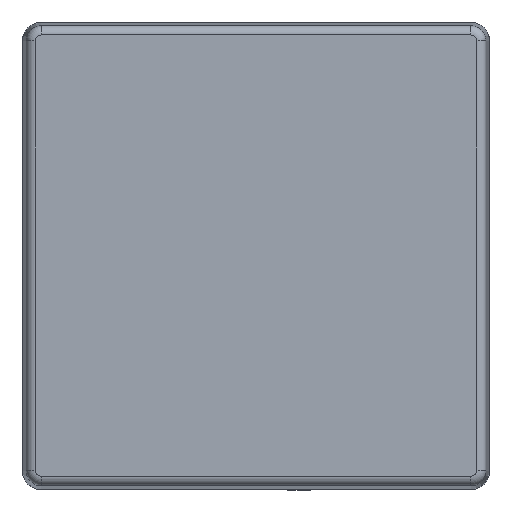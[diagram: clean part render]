
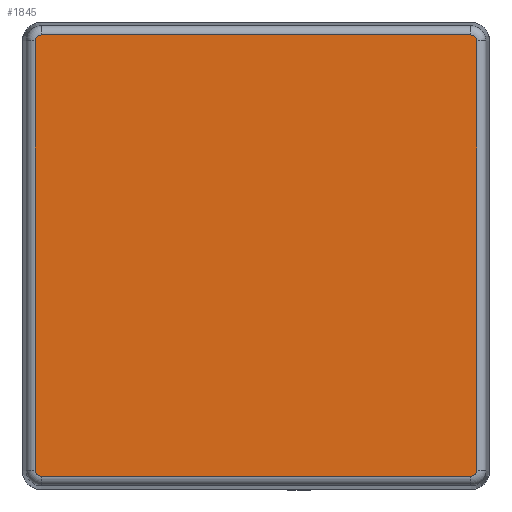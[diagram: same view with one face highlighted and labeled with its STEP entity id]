
A CAD part, top view. The second image highlights one B-rep face of the part: STEP entity #1845.
In plain terms, the highlighted planar face has unit normal (0, 0, 1).
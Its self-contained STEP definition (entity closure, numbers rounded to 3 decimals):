
#23 = VERTEX_POINT ( 'NONE', #2709 ) ;
#41 = VERTEX_POINT ( 'NONE', #1222 ) ;
#178 = DIRECTION ( 'NONE',  ( -1., 0., 0. ) ) ;
#252 = CIRCLE ( 'NONE', #824, 0.322 ) ;
#274 = PLANE ( 'NONE',  #1546 ) ;
#326 = CARTESIAN_POINT ( 'NONE',  ( 12.072, -11.75, 10.7 ) ) ;
#329 = CARTESIAN_POINT ( 'NONE',  ( -11.75, 11.75, 10.7 ) ) ;
#370 = CARTESIAN_POINT ( 'NONE',  ( 11.75, -11.75, 10.7 ) ) ;
#427 = CARTESIAN_POINT ( 'NONE',  ( 11.75, -12.072, 10.7 ) ) ;
#474 = VERTEX_POINT ( 'NONE', #326 ) ;
#491 = LINE ( 'NONE', #711, #908 ) ;
#508 = EDGE_CURVE ( 'NONE', #23, #1864, #2523, .T. ) ;
#539 = DIRECTION ( 'NONE',  ( 0., 0., 1. ) ) ;
#608 = CARTESIAN_POINT ( 'NONE',  ( 11.75, -12.072, 10.7 ) ) ;
#654 = EDGE_CURVE ( 'NONE', #763, #1311, #2075, .T. ) ;
#680 = FACE_OUTER_BOUND ( 'NONE', #2603, .T. ) ;
#711 = CARTESIAN_POINT ( 'NONE',  ( 12.072, 11.75, 10.7 ) ) ;
#719 = CARTESIAN_POINT ( 'NONE',  ( -12.072, -11.75, 10.7 ) ) ;
#728 = DIRECTION ( 'NONE',  ( 1., 0., 0. ) ) ;
#731 = ORIENTED_EDGE ( 'NONE', *, *, #2096, .T. ) ;
#757 = DIRECTION ( 'NONE',  ( 1., 0., 0. ) ) ;
#763 = VERTEX_POINT ( 'NONE', #1663 ) ;
#764 = VERTEX_POINT ( 'NONE', #608 ) ;
#804 = EDGE_CURVE ( 'NONE', #764, #474, #252, .T. ) ;
#824 = AXIS2_PLACEMENT_3D ( 'NONE', #370, #2085, #1486 ) ;
#884 = DIRECTION ( 'NONE',  ( 0., 0., 1. ) ) ;
#908 = VECTOR ( 'NONE', #1560, 1000. ) ;
#928 = VERTEX_POINT ( 'NONE', #719 ) ;
#946 = CARTESIAN_POINT ( 'NONE',  ( -12.072, -11.75, 10.7 ) ) ;
#964 = ORIENTED_EDGE ( 'NONE', *, *, #508, .T. ) ;
#967 = LINE ( 'NONE', #946, #1501 ) ;
#1072 = ORIENTED_EDGE ( 'NONE', *, *, #2064, .T. ) ;
#1085 = DIRECTION ( 'NONE',  ( 1., 0., 0. ) ) ;
#1167 = EDGE_CURVE ( 'NONE', #474, #23, #491, .T. ) ;
#1189 = DIRECTION ( 'NONE',  ( 0., 0., 1. ) ) ;
#1196 = CIRCLE ( 'NONE', #2356, 0.322 ) ;
#1222 = CARTESIAN_POINT ( 'NONE',  ( -11.75, -12.072, 10.7 ) ) ;
#1311 = VERTEX_POINT ( 'NONE', #2191 ) ;
#1354 = CARTESIAN_POINT ( 'NONE',  ( 11.75, 11.75, 10.7 ) ) ;
#1417 = EDGE_CURVE ( 'NONE', #1311, #928, #967, .T. ) ;
#1422 = VECTOR ( 'NONE', #178, 1000. ) ;
#1474 = DIRECTION ( 'NONE',  ( 0., -1., 0. ) ) ;
#1486 = DIRECTION ( 'NONE',  ( 1., 0., 0. ) ) ;
#1501 = VECTOR ( 'NONE', #1474, 1000. ) ;
#1546 = AXIS2_PLACEMENT_3D ( 'NONE', #1354, #539, #728 ) ;
#1560 = DIRECTION ( 'NONE',  ( 0., 1., 0. ) ) ;
#1663 = CARTESIAN_POINT ( 'NONE',  ( -11.75, 12.072, 10.7 ) ) ;
#1682 = ORIENTED_EDGE ( 'NONE', *, *, #1167, .T. ) ;
#1711 = AXIS2_PLACEMENT_3D ( 'NONE', #329, #1189, #2421 ) ;
#1742 = DIRECTION ( 'NONE',  ( 1., 0., 0. ) ) ;
#1754 = CARTESIAN_POINT ( 'NONE',  ( 11.75, 11.75, 10.7 ) ) ;
#1761 = ORIENTED_EDGE ( 'NONE', *, *, #1843, .T. ) ;
#1770 = ORIENTED_EDGE ( 'NONE', *, *, #1417, .T. ) ;
#1792 = ORIENTED_EDGE ( 'NONE', *, *, #804, .T. ) ;
#1843 = EDGE_CURVE ( 'NONE', #41, #764, #1893, .T. ) ;
#1845 = ADVANCED_FACE ( 'NONE', ( #680 ), #274, .T. ) ;
#1864 = VERTEX_POINT ( 'NONE', #2263 ) ;
#1893 = LINE ( 'NONE', #427, #2706 ) ;
#2032 = ORIENTED_EDGE ( 'NONE', *, *, #654, .T. ) ;
#2064 = EDGE_CURVE ( 'NONE', #928, #41, #1196, .T. ) ;
#2075 = CIRCLE ( 'NONE', #1711, 0.322 ) ;
#2085 = DIRECTION ( 'NONE',  ( 0., 0., 1. ) ) ;
#2096 = EDGE_CURVE ( 'NONE', #1864, #763, #2525, .T. ) ;
#2117 = CARTESIAN_POINT ( 'NONE',  ( -11.75, 12.072, 10.7 ) ) ;
#2191 = CARTESIAN_POINT ( 'NONE',  ( -12.072, 11.75, 10.7 ) ) ;
#2263 = CARTESIAN_POINT ( 'NONE',  ( 11.75, 12.072, 10.7 ) ) ;
#2356 = AXIS2_PLACEMENT_3D ( 'NONE', #2375, #884, #1742 ) ;
#2375 = CARTESIAN_POINT ( 'NONE',  ( -11.75, -11.75, 10.7 ) ) ;
#2421 = DIRECTION ( 'NONE',  ( 1., 0., 0. ) ) ;
#2523 = CIRCLE ( 'NONE', #2652, 0.322 ) ;
#2525 = LINE ( 'NONE', #2117, #1422 ) ;
#2603 = EDGE_LOOP ( 'NONE', ( #1761, #1792, #1682, #964, #731, #2032, #1770, #1072 ) ) ;
#2608 = DIRECTION ( 'NONE',  ( 0., 0., 1. ) ) ;
#2652 = AXIS2_PLACEMENT_3D ( 'NONE', #1754, #2608, #757 ) ;
#2706 = VECTOR ( 'NONE', #1085, 1000. ) ;
#2709 = CARTESIAN_POINT ( 'NONE',  ( 12.072, 11.75, 10.7 ) ) ;
